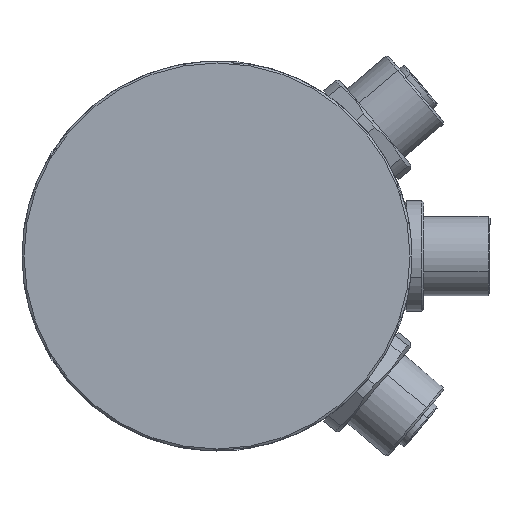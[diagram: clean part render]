
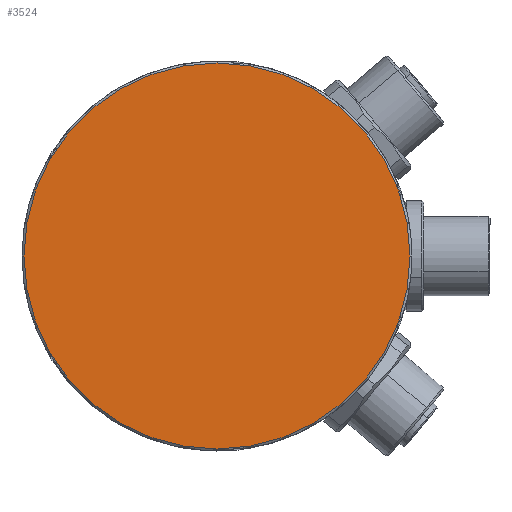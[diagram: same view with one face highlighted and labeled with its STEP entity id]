
A CAD part, front view. The second image highlights one B-rep face of the part: STEP entity #3524.
In plain terms, the highlighted planar face has unit normal (0, -1, 0).
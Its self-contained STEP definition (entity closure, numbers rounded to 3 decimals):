
#334 = PLANE ( 'NONE',  #3546 ) ;
#718 = VERTEX_POINT ( 'NONE', #1280 ) ;
#790 = ORIENTED_EDGE ( 'NONE', *, *, #5275, .T. ) ;
#982 = CARTESIAN_POINT ( 'NONE',  ( -35.555, -49.736, 0. ) ) ;
#1280 = CARTESIAN_POINT ( 'NONE',  ( 22.845, -49.736, 0. ) ) ;
#1537 = DIRECTION ( 'NONE',  ( 1., 0., 0. ) ) ;
#1669 = CARTESIAN_POINT ( 'NONE',  ( -6.355, -49.736, 0. ) ) ;
#1767 = ORIENTED_EDGE ( 'NONE', *, *, #2569, .T. ) ;
#1981 = CARTESIAN_POINT ( 'NONE',  ( -6.355, -49.736, 0. ) ) ;
#2569 = EDGE_CURVE ( 'NONE', #2809, #718, #3358, .T. ) ;
#2809 = VERTEX_POINT ( 'NONE', #982 ) ;
#3094 = DIRECTION ( 'NONE',  ( 0., -1., 0. ) ) ;
#3358 = CIRCLE ( 'NONE', #5920, 29.2 ) ;
#3524 = ADVANCED_FACE ( 'NONE', ( #4752 ), #334, .F. ) ;
#3546 = AXIS2_PLACEMENT_3D ( 'NONE', #3687, #5223, #3730 ) ;
#3580 = EDGE_LOOP ( 'NONE', ( #790, #1767 ) ) ;
#3581 = DIRECTION ( 'NONE',  ( 1., 0., 0. ) ) ;
#3687 = CARTESIAN_POINT ( 'NONE',  ( -6.355, -49.736, 0. ) ) ;
#3730 = DIRECTION ( 'NONE',  ( 1., 0., 0. ) ) ;
#4401 = CIRCLE ( 'NONE', #6292, 29.2 ) ;
#4752 = FACE_OUTER_BOUND ( 'NONE', #3580, .T. ) ;
#5223 = DIRECTION ( 'NONE',  ( 0., 1., 0. ) ) ;
#5275 = EDGE_CURVE ( 'NONE', #718, #2809, #4401, .T. ) ;
#5920 = AXIS2_PLACEMENT_3D ( 'NONE', #1981, #5925, #1537 ) ;
#5925 = DIRECTION ( 'NONE',  ( 0., -1., 0. ) ) ;
#6292 = AXIS2_PLACEMENT_3D ( 'NONE', #1669, #3094, #3581 ) ;
